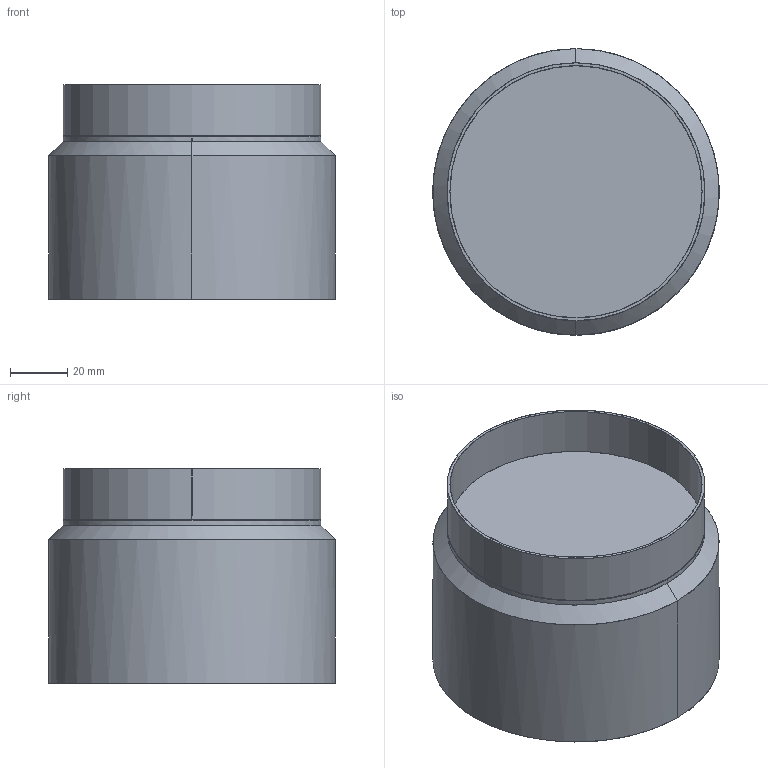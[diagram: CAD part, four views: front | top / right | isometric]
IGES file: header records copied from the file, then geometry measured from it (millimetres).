
Start section: SolidWorks IGES file using analytic representation for surfaces
Global section: file name: C:\Users\Agustin\Desktop\COMPARTIDA\Nueva Coleccion Septiembre 2026\HOREO_1366\HOREO_A1367\3D\HOREO_T1367 .IGS; native system: SolidWorks 2023; preprocessor: SolidWorks 2023; author: Agustin; date: 260806.123241; units: millimetre
Bounding box: 99.95 x 100 x 74.75 mm (x, y, z)
Surface area: 105794.1 mm2 (no closed solid volume)
Topology: 0 solids, 0 shells, 43 faces, 416 edges, 400 vertices
Faces by surface type: bspline 39, revolution 4
